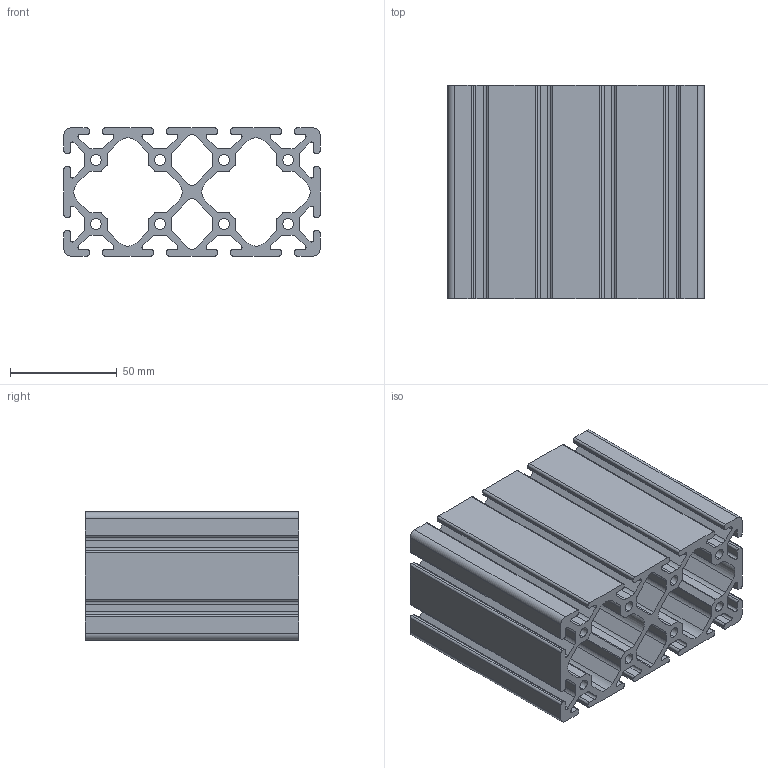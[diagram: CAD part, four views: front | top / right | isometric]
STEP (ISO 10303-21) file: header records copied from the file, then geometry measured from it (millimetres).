
FILE_DESCRIPTION (( 'STEP AP203' ), '1' );
FILE_NAME ('0106P12060S.STEP', '2024-02-27T14:22:53', ( 'Windows-Benutzer' ), ( '' ), 'SwSTEP 2.0', 'SolidWorks 2023', '' );
FILE_SCHEMA (( 'CONFIG_CONTROL_DESIGN' ));
Length unit declared in the file: millimetre
Products named in the file (1): 0106P12060S
Bounding box: 120 x 100 x 60 mm (x, y, z)
Volume: 237820.3 mm3; surface area: 135730.3 mm2
Topology: 1 solids, 1 shells, 330 faces, 984 edges, 656 vertices
Faces by surface type: cylinder 176, plane 154
Entity records: 11325 total; most frequent: DIRECTION 1998, CARTESIAN_POINT 1971, ORIENTED_EDGE 1968, EDGE_CURVE 984, AXIS2_PLACEMENT_3D 683, VERTEX_POINT 656, VECTOR 632, LINE 632
